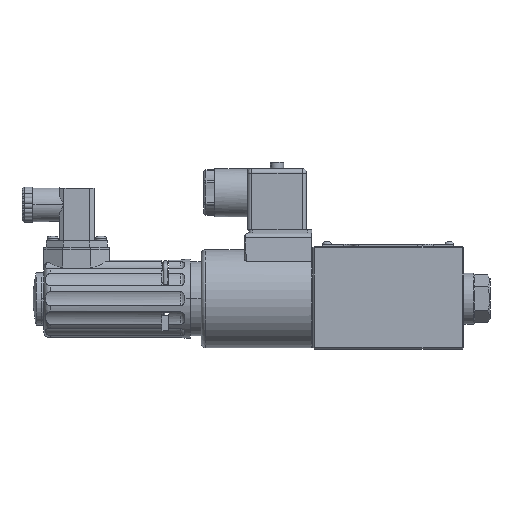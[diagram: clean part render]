
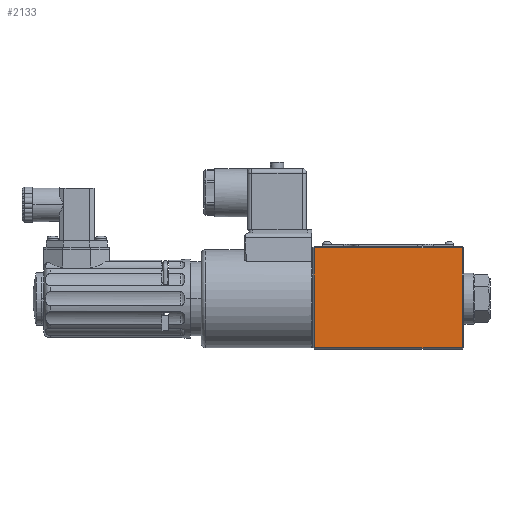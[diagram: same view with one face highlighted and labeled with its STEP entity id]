
A CAD part, front view. The second image highlights one B-rep face of the part: STEP entity #2133.
In plain terms, the highlighted planar face has unit normal (0, -1, 0).
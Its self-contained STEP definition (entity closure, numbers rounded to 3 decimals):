
#2133=ADVANCED_FACE('',(#3242),#2735,.T.);
#2735=PLANE('',#13898);
#3242=FACE_OUTER_BOUND('',#3922,.T.);
#3922=EDGE_LOOP('',(#7650,#7651,#7652,#7653));
#4868=LINE('',#24233,#5644);
#4869=LINE('',#24236,#5645);
#4870=LINE('',#24238,#5646);
#4871=LINE('',#24240,#5647);
#5644=VECTOR('',#16263,1.);
#5645=VECTOR('',#16264,1.);
#5646=VECTOR('',#16265,1.);
#5647=VECTOR('',#16266,1.);
#7650=ORIENTED_EDGE('',*,*,#11608,.T.);
#7651=ORIENTED_EDGE('',*,*,#11609,.T.);
#7652=ORIENTED_EDGE('',*,*,#11610,.T.);
#7653=ORIENTED_EDGE('',*,*,#11611,.T.);
#10144=VERTEX_POINT('',#24234);
#10145=VERTEX_POINT('',#24235);
#10146=VERTEX_POINT('',#24237);
#10147=VERTEX_POINT('',#24239);
#11608=EDGE_CURVE('',#10144,#10145,#4868,.T.);
#11609=EDGE_CURVE('',#10145,#10146,#4869,.T.);
#11610=EDGE_CURVE('',#10146,#10147,#4870,.T.);
#11611=EDGE_CURVE('',#10147,#10144,#4871,.T.);
#13898=AXIS2_PLACEMENT_3D('',#24241,#16267,#16268);
#16263=DIRECTION('',(0.,0.,-1.));
#16264=DIRECTION('',(1.,0.,0.));
#16265=DIRECTION('',(0.,0.,1.));
#16266=DIRECTION('',(-1.,0.,0.));
#16267=DIRECTION('',(0.,-1.,0.));
#16268=DIRECTION('',(0.,0.,1.));
#24233=CARTESIAN_POINT('',(0.7,-22.,-23.));
#24234=CARTESIAN_POINT('',(0.7,-22.,23.3));
#24235=CARTESIAN_POINT('',(0.7,-22.,-22.3));
#24236=CARTESIAN_POINT('',(34.5,-22.,-22.3));
#24237=CARTESIAN_POINT('',(68.3,-22.,-22.3));
#24238=CARTESIAN_POINT('',(68.3,-22.,-23.));
#24239=CARTESIAN_POINT('',(68.3,-22.,23.3));
#24240=CARTESIAN_POINT('',(34.5,-22.,23.3));
#24241=CARTESIAN_POINT('',(34.5,-22.,-23.));
